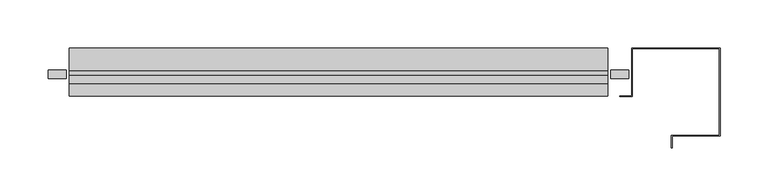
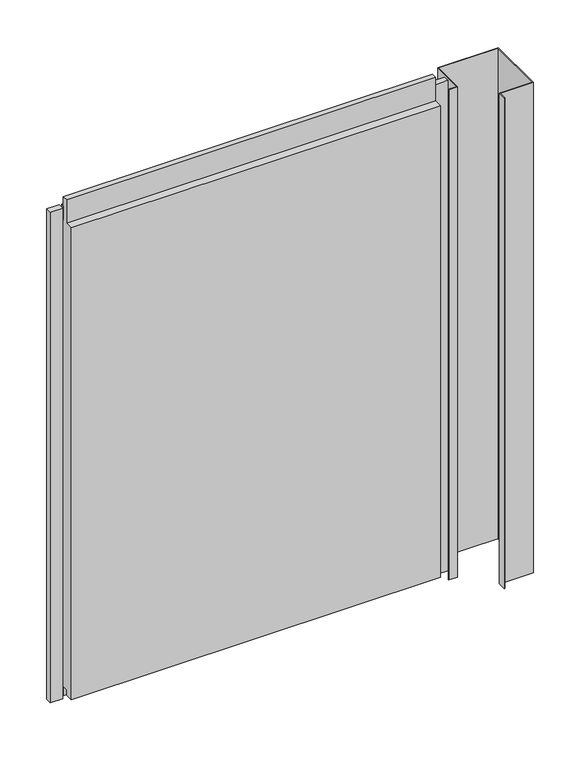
"""IFC4 building model written with IfcOpenShell, lengths in millimetres: plate geometry, Trimo_Qbiss Screen_Normal Panel-HORIZONTAL : HR - B."""

import ifcopenshell
import ifcopenshell.guid

model = None  # the IFC model being written
_history = None  # IfcOwnerHistory: only IFC2X3 demands one
_inside = {}  # id of a spatial element -> (the spatial element, [elements in it])
_under = {}  # id of a project, library or spatial element -> (it, [spatial elements below it])
_declared = {}  # id of a project -> (the project, [libraries it declares])
_typed = {}  # id of a type object -> (the type object, [elements of that type])
_made_of = {}  # id of a material, layer set ... -> (it, [elements and type objects made of it])


def new_model(schema):
    """Start an empty IFC model of exactly this schema.

    Asked for "IFC4X3", IfcOpenShell would pick the latest addendum, in which some entities
    have other attributes; the version numbers below select the first issue.
    IFC2X3 requires an IfcOwnerHistory on every rooted entity: one is made here for all.
    """
    global model, _history
    if schema == "IFC4X3":
        model = ifcopenshell.file(schema_version=(4, 3, 0, 0))
    else:
        model = ifcopenshell.file(schema=schema)
    _inside.clear()
    _under.clear()
    _declared.clear()
    _typed.clear()
    _made_of.clear()
    _history = None
    if model.schema == "IFC2X3":
        org = make("IfcOrganization", Name="unknown")
        user = make(
            "IfcPersonAndOrganization",
            ThePerson=make("IfcPerson", FamilyName="unknown"),
            TheOrganization=org,
        )
        app = make(
            "IfcApplication",
            ApplicationDeveloper=org,
            Version="unknown",
            ApplicationFullName="unknown",
            ApplicationIdentifier="unknown",
        )
        _history = make(
            "IfcOwnerHistory",
            OwningUser=user,
            OwningApplication=app,
            ChangeAction="ADDED",
            CreationDate=0,
        )
    return model


def make(cls, **values):
    """One entity of the class cls with the attributes given. An attribute that is None is left unset."""
    return model.create_entity(
        cls, **{name: value for name, value in values.items() if value is not None}
    )


def rooted(cls, **values):
    """An entity with a GlobalId (a new one), such as an element, a storey or a relation."""
    return make(cls, GlobalId=ifcopenshell.guid.new(), OwnerHistory=_history, **values)


def si_unit(unit_type, name, prefix=None):
    """IfcSIUnit, for example si_unit("LENGTHUNIT", "METRE", prefix="MILLI")."""
    return make("IfcSIUnit", UnitType=unit_type, Prefix=prefix, Name=name)


def assignment(units):
    """IfcUnitAssignment: the units of a project."""
    return None if units is None else make("IfcUnitAssignment", Units=units)


def point(xyz):
    """IfcCartesianPoint."""
    return None if xyz is None else make("IfcCartesianPoint", Coordinates=xyz)


def direction(xyz):
    """IfcDirection."""
    return None if xyz is None else make("IfcDirection", DirectionRatios=xyz)


def frame(location, z_axis=None, x_axis=None):
    """IfcAxis2Placement3D, a coordinate frame: its origin and axes. An axis left out is left unset."""
    return make(
        "IfcAxis2Placement3D",
        Location=point(location),
        Axis=direction(z_axis),
        RefDirection=direction(x_axis),
    )


def origin():
    """The frame at (0, 0, 0) with its axes left unset."""
    return frame((0.0, 0.0, 0.0))


def place(relative_to, where):
    """IfcLocalPlacement: puts the frame where relative to a parent placement (None: the world)."""
    return make(
        "IfcLocalPlacement", PlacementRelTo=relative_to, RelativePlacement=where
    )


def context(
    kind, dimensions, precision=None, world=None, true_north=None, identifier=None
):
    """IfcGeometricRepresentationContext, for example the 3D "Model" context."""
    return make(
        "IfcGeometricRepresentationContext",
        ContextIdentifier=identifier,
        ContextType=kind,
        CoordinateSpaceDimension=dimensions,
        Precision=precision,
        WorldCoordinateSystem=world,
        TrueNorth=true_north,
    )


def project(units=None, contexts=None):
    """IfcProject with its units and contexts."""
    return rooted(
        "IfcProject",
        Name="project",
        RepresentationContexts=contexts,
        UnitsInContext=assignment(units),
    )


def spatial(cls, under=None, at=None, **own):
    """A site, building, storey or space (cls), placed at a placement, below another one or the project."""
    s = rooted(cls, ObjectPlacement=at, **own)
    if under is not None:
        _under.setdefault(under.id(), (under, []))[1].append(s)
    return s


def polyline(points):
    """IfcPolyline through the points."""
    return make("IfcPolyline", Points=[point(p) for p in points])


def outline(outer, holes=None, kind="AREA"):
    """IfcArbitraryClosedProfileDef: a profile drawn as a closed curve; with holes, ...WithVoids."""
    if holes is None:
        return make("IfcArbitraryClosedProfileDef", ProfileType=kind, OuterCurve=outer)
    return make(
        "IfcArbitraryProfileDefWithVoids",
        ProfileType=kind,
        OuterCurve=outer,
        InnerCurves=holes,
    )


def extrude(swept, where, along, depth):
    """IfcExtrudedAreaSolid: the profile swept, set in the frame where, extruded along a direction by depth."""
    return make(
        "IfcExtrudedAreaSolid",
        SweptArea=swept,
        Position=where,
        ExtrudedDirection=direction(along),
        Depth=depth,
    )


def shape(context_of_items, identifier, shape_type, items):
    """IfcShapeRepresentation: the items that make up one representation, for example the "Body"."""
    return make(
        "IfcShapeRepresentation",
        ContextOfItems=context_of_items,
        RepresentationIdentifier=identifier,
        RepresentationType=shape_type,
        Items=items,
    )


def source(mapping_origin, context_of_items, identifier, shape_type, items):
    """IfcRepresentationMap: a shape defined once, which mapped items show again and again."""
    return make(
        "IfcRepresentationMap",
        MappingOrigin=mapping_origin,
        MappedRepresentation=shape(context_of_items, identifier, shape_type, items),
    )


def transform(
    local_origin,
    x_axis=None,
    y_axis=None,
    z_axis=None,
    scale=None,
    scale2=None,
    scale3=None,
    uniform=True,
):
    """IfcCartesianTransformationOperator3D, or its non-uniform kind. x_axis, y_axis, z_axis: its Axis1, 2, 3."""
    if uniform:
        return make(
            "IfcCartesianTransformationOperator3D",
            Axis1=direction(x_axis),
            Axis2=direction(y_axis),
            LocalOrigin=point(local_origin),
            Scale=scale,
            Axis3=direction(z_axis),
        )
    return make(
        "IfcCartesianTransformationOperator3DnonUniform",
        Axis1=direction(x_axis),
        Axis2=direction(y_axis),
        LocalOrigin=point(local_origin),
        Scale=scale,
        Axis3=direction(z_axis),
        Scale2=scale2,
        Scale3=scale3,
    )


def mapped(mapping_source, mapping_target):
    """IfcMappedItem: shows the shape of a source again, moved by a transform."""
    return make(
        "IfcMappedItem", MappingSource=mapping_source, MappingTarget=mapping_target
    )


def made_of(thing, what):
    """Note that an element or type object is made of a material, layer set ...; save() writes the relation."""
    if what is not None:
        _made_of.setdefault(what.id(), (what, []))[1].append(thing)
    return thing


def element(
    cls,
    number,
    at=None,
    inside=None,
    cuts=None,
    type_object=None,
    material=None,
    context=None,
    identifier="Body",
    shape_type=None,
    held_by="IfcProductDefinitionShape",
    body=None,
    shapes=None,
    **own,
):
    """One element of the class cls, such as IfcWall. Its Tag is "e" and its number.

    at: its placement. inside: the storey or other place that contains it. cuts: it is an
    opening in that element (IfcRelVoidsElement). A single representation is given by context,
    identifier, shape_type and body (its items); several are given by shapes. held_by: the class
    of the entity that holds the representations. save() writes the other relations.
    """
    e = rooted(cls, Tag="e%d" % number, ObjectPlacement=at, **own)
    if body is not None:
        shapes = [shape(context, identifier, shape_type, body)]
    if shapes is not None:
        e.Representation = make(held_by, Representations=shapes)
    if inside is not None:
        _inside.setdefault(inside.id(), (inside, []))[1].append(e)
    if cuts is not None:
        rooted(
            "IfcRelVoidsElement", RelatingBuildingElement=cuts, RelatedOpeningElement=e
        )
    if type_object is not None:
        _typed.setdefault(type_object.id(), (type_object, []))[1].append(e)
    return made_of(e, material)


def aggregate(whole, parts):
    """IfcRelAggregates: a whole, such as a stair, and the parts it consists of."""
    return rooted("IfcRelAggregates", RelatingObject=whole, RelatedObjects=parts)


def save(model, path):
    """Write the relations noted so far, then the file.

    IfcRelAggregates (storeys below a building ...), IfcRelContainedInSpatialStructure (elements
    in a storey), IfcRelDefinesByType, IfcRelAssociatesMaterial and IfcRelDeclares: one each for
    every whole, place, type object, material and project.
    """
    for whole, parts in _under.values():
        aggregate(whole, parts)
    for where, things in _inside.values():
        rooted(
            "IfcRelContainedInSpatialStructure",
            RelatedElements=things,
            RelatingStructure=where,
        )
    for kind, things in _typed.values():
        rooted("IfcRelDefinesByType", RelatedObjects=things, RelatingType=kind)
    for what, things in _made_of.values():
        rooted("IfcRelAssociatesMaterial", RelatedObjects=things, RelatingMaterial=what)
    for by, libraries in _declared.values():
        rooted("IfcRelDeclares", RelatingContext=by, RelatedDefinitions=libraries)
    model.write(path)


def plate_6bd1128d(model_context):
    return source(origin(), model_context, "Body", "SweptSolid", [
        extrude(outline(polyline([(-283.5, 121.5978162), (-283.5, 112.8978162), (-302.5, 112.8978162), (-302.5, 121.5978162), (-283.5, 121.5978162)])), frame((0.0, 0.0, -1.0), z_axis=(0.0, 0.0, 1.0), x_axis=(1.0, 0.0, 0.0)), (0.0, 0.0, 1.0), 787.95),
        extrude(outline(polyline([(283.5, 112.8978162), (283.5, 121.5978162), (302.5, 121.5978162), (302.5, 112.8978162), (283.5, 112.8978162)])), frame((0.0, 0.0, -1.0), z_axis=(0.0, 0.0, 1.0), x_axis=(1.0, 0.0, 0.0)), (0.0, 0.0, 1.0), 787.95),
        extrude(outline(polyline([(280.5, 121.0), (280.5, 116.0), (-280.5, 116.0), (-280.5, 121.0), (280.5, 121.0)])), frame((0.0, 0.0, 765.95), z_axis=(0.0, 0.0, 1.0), x_axis=(1.0, 0.0, 0.0)), (0.0, 0.0, 1.0), 21.0),
        extrude(outline(polyline([(116.0, 764.95), (145.0, 764.95), (145.0, 0.0), (117.0, 0.0), (117.0, 15.5), (107.0, 15.5), (107.0, 7.0), (95.0, 7.0), (95.0, 764.95), (108.0, 764.95), (108.0, 802.45), (116.0, 802.45), (116.0, 764.95)])), frame((-280.5, 0.0, 0.0), z_axis=(1.0, 0.0, 0.0), x_axis=(0.0, 1.0, 0.0)), (0.0, 0.0, 1.0), 561.0),
        extrude(outline(polyline([(305.5, 95.0), (305.5, 145.0), (397.5, 145.0), (397.5, 53.0), (347.5, 53.0), (347.5, 40.5), (346.7, 40.5), (346.7, 53.8), (396.7, 53.8), (396.7, 144.2), (306.3, 144.2), (306.3, 94.1823429), (293.0, 94.1823429), (293.0, 95.0), (305.5, 95.0)])), frame((0.0, 0.0, -1.0), z_axis=(0.0, 0.0, 1.0), x_axis=(1.0, 0.0, 0.0)), (0.0, 0.0, 1.0), 787.95),
    ])


if __name__ == "__main__":
    model = new_model("IFC4")
    model_context = context("Model", 3, world=origin())
    ifc_project = project(units=[si_unit("LENGTHUNIT", "METRE", prefix="MILLI")], contexts=[model_context])
    site = spatial("IfcSite", under=ifc_project)
    building = spatial("IfcBuilding", under=site)
    placement = place(None, origin())
    plate_shape = plate_6bd1128d(model_context)
    element("IfcPlate", 1, ObjectType="Trimo_Qbiss Screen_Normal Panel-HORIZONTAL : HR - B", at=placement, inside=building, context=model_context, shape_type="MappedRepresentation", body=[
        mapped(plate_shape, transform((0.0, 0.0, 0.0), x_axis=(1.0, 0.0, 0.0), y_axis=(0.0, 1.0, 0.0), z_axis=(0.0, 0.0, 1.0))),
    ])
    save(model, "model.ifc")
